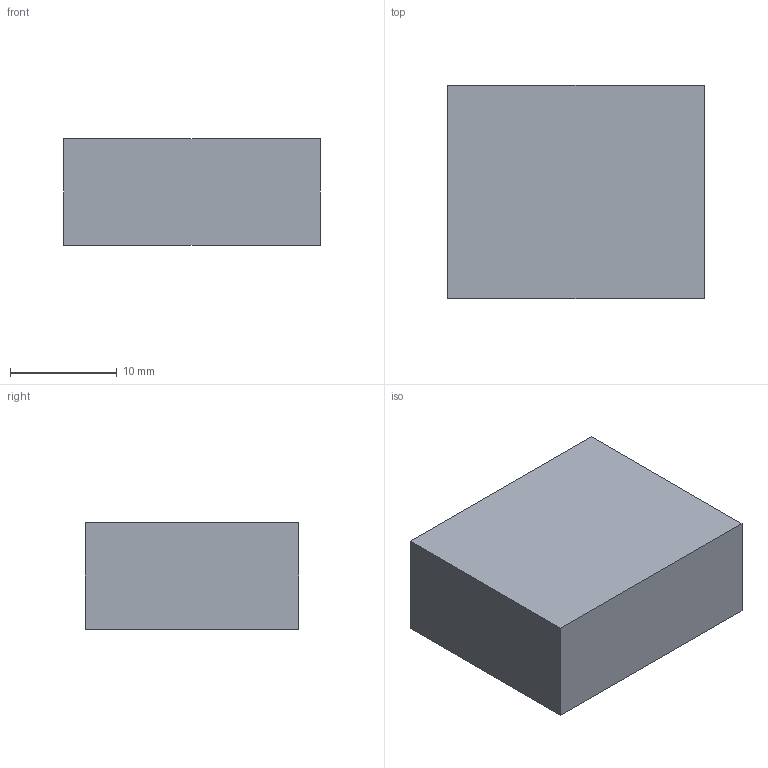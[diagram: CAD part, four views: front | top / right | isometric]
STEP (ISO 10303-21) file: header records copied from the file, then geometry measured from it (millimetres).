
FILE_DESCRIPTION(('Open CASCADE Model'),'2;1');
FILE_NAME('Open CASCADE Shape Model','2026-11-24T19:57:40',('Author'),( 'Open CASCADE'),'Open CASCADE STEP processor 7.8','Open CASCADE 7.8' ,'Unknown');
FILE_SCHEMA(('AUTOMOTIVE_DESIGN { 1 0 10303 214 1 1 1 1 }'));
Length unit declared in the file: millimetre
Products named in the file (1): Open CASCADE STEP translator 7.8 152
Bounding box: 24 x 20 x 10 mm (x, y, z)
Volume: 4800 mm3; surface area: 1840 mm2
Topology: 1 solids, 1 shells, 6 faces, 12 edges, 8 vertices
Faces by surface type: plane 6
Entity records: 322 total; most frequent: CARTESIAN_POINT 51, DIRECTION 50, LINE 36, VECTOR 36, ORIENTED_EDGE 24, PCURVE 24, DEFINITIONAL_REPRESENTATION 24, EDGE_CURVE 12
